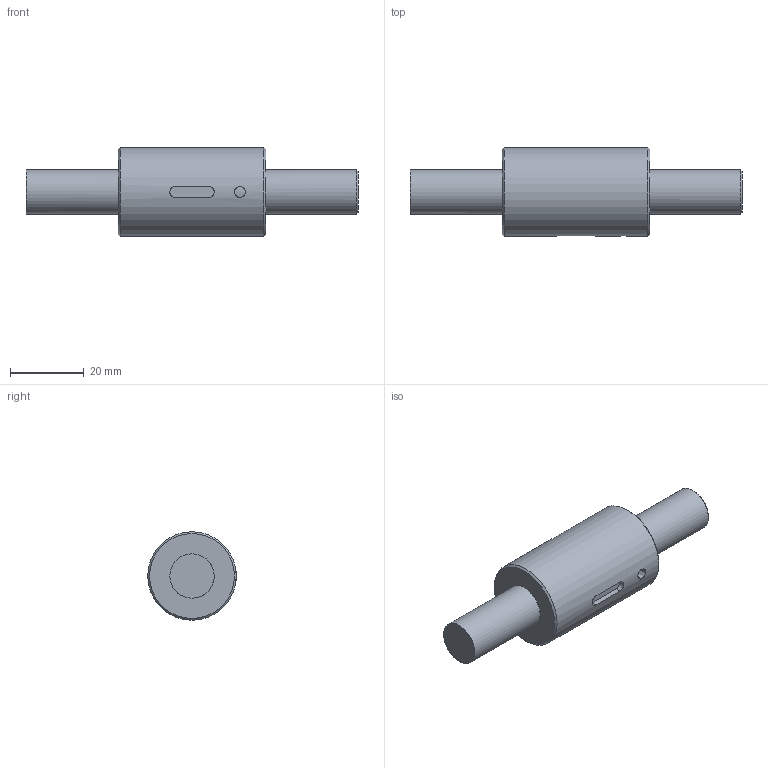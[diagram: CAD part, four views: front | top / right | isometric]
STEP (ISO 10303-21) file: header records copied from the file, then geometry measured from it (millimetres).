
FILE_DESCRIPTION(/* description */ (''),/* implementation_level */ '2;1');
FILE_NAME(/* name */ 'SCNH1205.stp',/* time_stamp */ '2016-07-18T11:04:25+08:00',/* author */ (''),/* organization */ (''),/* preprocessor_version */ 'ST-DEVELOPER v11',/* originating_system */ 'SIEMENS UGS NX 6.0',/* authorisation */ '');
FILE_SCHEMA (('CONFIG_CONTROL_DESIGN'));
Length unit declared in the file: millimetre
Products named in the file (1): didi6F95hpfq
Bounding box: 90 x 24 x 24 mm (x, y, z)
Volume: 23634.7 mm3; surface area: 8847.2 mm2
Topology: 2 solids, 2 shells, 17 faces, 34 edges, 22 vertices
Faces by surface type: plane 7, cylinder 5, cone 3, extrusion 2
Full cylindrical faces by diameter (mm): 12 x2, 24 x1
Entity records: 668 total; most frequent: CARTESIAN_POINT 250, DIRECTION 66, ORIENTED_EDGE 54, EDGE_LOOP 28, EDGE_CURVE 27, AXIS2_PLACEMENT_3D 27, VERTEX_POINT 21, FACE_BOUND 19
